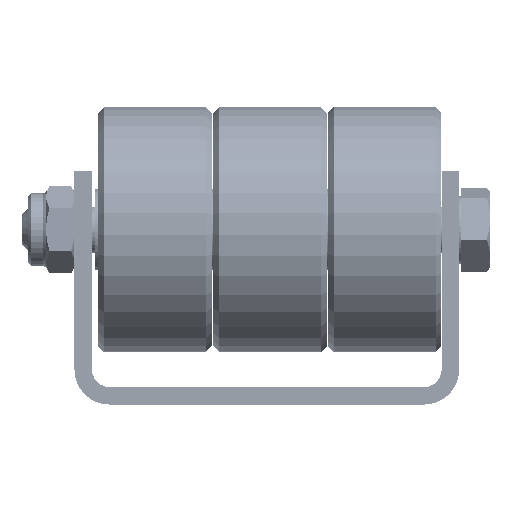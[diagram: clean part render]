
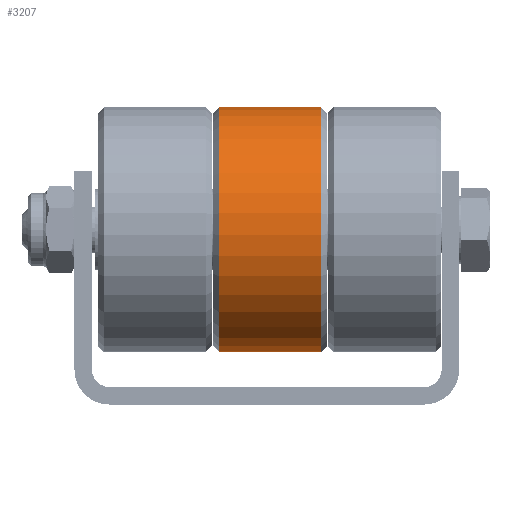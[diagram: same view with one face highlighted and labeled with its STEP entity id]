
A CAD part, front view. The second image highlights one B-rep face of the part: STEP entity #3207.
In plain terms, the highlighted cylindrical face has radius 21 mm (diameter 42 mm), a full revolution.
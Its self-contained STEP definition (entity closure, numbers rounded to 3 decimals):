
#3207 = ADVANCED_FACE( '', ( #5782, #5783 ), #5784, .T. );
#5782 = FACE_OUTER_BOUND( '', #8272, .T. );
#5783 = FACE_OUTER_BOUND( '', #8273, .T. );
#5784 = CYLINDRICAL_SURFACE( '', #8274, 21. );
#8272 = EDGE_LOOP( '', ( #12435 ) );
#8273 = EDGE_LOOP( '', ( #12436 ) );
#8274 = AXIS2_PLACEMENT_3D( '', #12437, #12438, #12439 );
#12435 = ORIENTED_EDGE( '', *, *, #16204, .T. );
#12436 = ORIENTED_EDGE( '', *, *, #16205, .T. );
#12437 = CARTESIAN_POINT( '', ( 0., -9.75, 0. ) );
#12438 = DIRECTION( '', ( 0., -1., 0. ) );
#12439 = DIRECTION( '', ( 0., 0., 1. ) );
#16204 = EDGE_CURVE( '', #19224, #19224, #19225, .F. );
#16205 = EDGE_CURVE( '', #19226, #19226, #19227, .T. );
#19224 = VERTEX_POINT( '', #23171 );
#19225 = CIRCLE( '', #23172, 21. );
#19226 = VERTEX_POINT( '', #23173 );
#19227 = CIRCLE( '', #23174, 21. );
#23171 = CARTESIAN_POINT( '', ( 0., 8.75, 21. ) );
#23172 = AXIS2_PLACEMENT_3D( '', #26295, #26296, #26297 );
#23173 = CARTESIAN_POINT( '', ( 0., -8.75, 21. ) );
#23174 = AXIS2_PLACEMENT_3D( '', #26298, #26299, #26300 );
#26295 = CARTESIAN_POINT( '', ( 0., 8.75, 0. ) );
#26296 = DIRECTION( '', ( 0., 1., 0. ) );
#26297 = DIRECTION( '', ( 0., 0., 1. ) );
#26298 = CARTESIAN_POINT( '', ( 0., -8.75, 0. ) );
#26299 = DIRECTION( '', ( 0., 1., 0. ) );
#26300 = DIRECTION( '', ( 0., 0., 1. ) );
